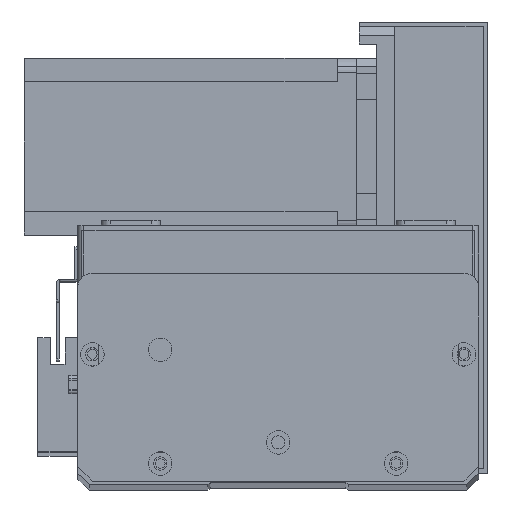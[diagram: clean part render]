
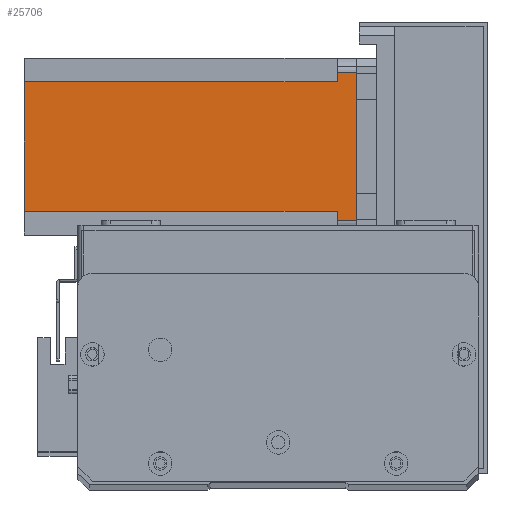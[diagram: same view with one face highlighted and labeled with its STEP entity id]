
A CAD part, top view. The second image highlights one B-rep face of the part: STEP entity #25706.
In plain terms, the highlighted planar face has unit normal (0, 0, 1) as drawn and (0, 1, 0) by its records, which use the part's own axes.
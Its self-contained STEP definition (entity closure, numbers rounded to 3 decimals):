
#6 = CARTESIAN_POINT ( 'NONE',  ( 8., 60., -112.5 ) ) ;
#501 = VERTEX_POINT ( 'NONE', #6517 ) ;
#1114 = VECTOR ( 'NONE', #16536, 1000. ) ;
#1503 = VECTOR ( 'NONE', #19902, 1000. ) ;
#1933 = LINE ( 'NONE', #13452, #24583 ) ;
#2400 = DIRECTION ( 'NONE',  ( 0., 0., -1. ) ) ;
#3109 = CARTESIAN_POINT ( 'NONE',  ( 5., 60., -112.5 ) ) ;
#3483 = CARTESIAN_POINT ( 'NONE',  ( 52., 60., -112.5 ) ) ;
#3580 = ORIENTED_EDGE ( 'NONE', *, *, #28695, .T. ) ;
#4055 = CARTESIAN_POINT ( 'NONE',  ( 8., 60., -112.5 ) ) ;
#5847 = DIRECTION ( 'NONE',  ( 0., 0., 1. ) ) ;
#6517 = CARTESIAN_POINT ( 'NONE',  ( 52., 60., -6.5 ) ) ;
#7199 = EDGE_LOOP ( 'NONE', ( #21116, #14392, #27530, #15341, #10366, #16218, #16125, #3580 ) ) ;
#7360 = CARTESIAN_POINT ( 'NONE',  ( 55., 60., -6.5 ) ) ;
#7591 = CARTESIAN_POINT ( 'NONE',  ( 0., 60., -112.5 ) ) ;
#7978 = VERTEX_POINT ( 'NONE', #16073 ) ;
#9292 = LINE ( 'NONE', #28476, #14570 ) ;
#9902 = VERTEX_POINT ( 'NONE', #19550 ) ;
#9904 = DIRECTION ( 'NONE',  ( 0., 0., 1. ) ) ;
#10144 = CARTESIAN_POINT ( 'NONE',  ( 5., 60., -6.5 ) ) ;
#10366 = ORIENTED_EDGE ( 'NONE', *, *, #26569, .T. ) ;
#11026 = LINE ( 'NONE', #3483, #15550 ) ;
#11562 = VERTEX_POINT ( 'NONE', #10144 ) ;
#13452 = CARTESIAN_POINT ( 'NONE',  ( 52., 60., -6.5 ) ) ;
#14392 = ORIENTED_EDGE ( 'NONE', *, *, #24758, .T. ) ;
#14570 = VECTOR ( 'NONE', #19711, 1000. ) ;
#15341 = ORIENTED_EDGE ( 'NONE', *, *, #25820, .F. ) ;
#15550 = VECTOR ( 'NONE', #5847, 1000. ) ;
#15790 = VERTEX_POINT ( 'NONE', #7360 ) ;
#16073 = CARTESIAN_POINT ( 'NONE',  ( 8., 60., -6.5 ) ) ;
#16125 = ORIENTED_EDGE ( 'NONE', *, *, #27615, .T. ) ;
#16218 = ORIENTED_EDGE ( 'NONE', *, *, #26777, .F. ) ;
#16536 = DIRECTION ( 'NONE',  ( -1., 0., 0. ) ) ;
#17285 = CARTESIAN_POINT ( 'NONE',  ( 55., 60., 0. ) ) ;
#17720 = EDGE_CURVE ( 'NONE', #18545, #23069, #18601, .T. ) ;
#18038 = DIRECTION ( 'NONE',  ( 1., 0., 0. ) ) ;
#18545 = VERTEX_POINT ( 'NONE', #17285 ) ;
#18601 = LINE ( 'NONE', #18656, #1114 ) ;
#18656 = CARTESIAN_POINT ( 'NONE',  ( 0., 60., 0. ) ) ;
#19054 = DIRECTION ( 'NONE',  ( -1., 0., 0. ) ) ;
#19550 = CARTESIAN_POINT ( 'NONE',  ( 52., 60., -112.5 ) ) ;
#19658 = LINE ( 'NONE', #28645, #1503 ) ;
#19711 = DIRECTION ( 'NONE',  ( 0., 0., -1. ) ) ;
#19902 = DIRECTION ( 'NONE',  ( -1., 0., 0. ) ) ;
#20915 = PLANE ( 'NONE',  #26006 ) ;
#21116 = ORIENTED_EDGE ( 'NONE', *, *, #17720, .F. ) ;
#21252 = DIRECTION ( 'NONE',  ( 0., 0., 1. ) ) ;
#23069 = VERTEX_POINT ( 'NONE', #25384 ) ;
#23260 = DIRECTION ( 'NONE',  ( 0., 1., 0. ) ) ;
#24583 = VECTOR ( 'NONE', #18038, 1000. ) ;
#24758 = EDGE_CURVE ( 'NONE', #18545, #15790, #9292, .T. ) ;
#25384 = CARTESIAN_POINT ( 'NONE',  ( 5., 60., 0. ) ) ;
#25478 = EDGE_CURVE ( 'NONE', #501, #15790, #1933, .T. ) ;
#25588 = FACE_OUTER_BOUND ( 'NONE', #7199, .T. ) ;
#25706 = ADVANCED_FACE ( 'NONE', ( #25588 ), #20915, .T. ) ;
#25727 = CARTESIAN_POINT ( 'NONE',  ( 8., 60., -6.5 ) ) ;
#25820 = EDGE_CURVE ( 'NONE', #9902, #501, #11026, .T. ) ;
#25871 = VECTOR ( 'NONE', #2400, 1000. ) ;
#26006 = AXIS2_PLACEMENT_3D ( 'NONE', #7591, #23260, #9904 ) ;
#26505 = VECTOR ( 'NONE', #19054, 1000. ) ;
#26569 = EDGE_CURVE ( 'NONE', #9902, #28427, #19658, .T. ) ;
#26777 = EDGE_CURVE ( 'NONE', #7978, #28427, #27230, .T. ) ;
#27177 = LINE ( 'NONE', #25727, #26505 ) ;
#27230 = LINE ( 'NONE', #6, #25871 ) ;
#27470 = LINE ( 'NONE', #3109, #28150 ) ;
#27530 = ORIENTED_EDGE ( 'NONE', *, *, #25478, .F. ) ;
#27615 = EDGE_CURVE ( 'NONE', #7978, #11562, #27177, .T. ) ;
#28150 = VECTOR ( 'NONE', #21252, 1000. ) ;
#28427 = VERTEX_POINT ( 'NONE', #4055 ) ;
#28476 = CARTESIAN_POINT ( 'NONE',  ( 55., 60., -112.5 ) ) ;
#28645 = CARTESIAN_POINT ( 'NONE',  ( 0., 60., -112.5 ) ) ;
#28695 = EDGE_CURVE ( 'NONE', #11562, #23069, #27470, .T. ) ;
